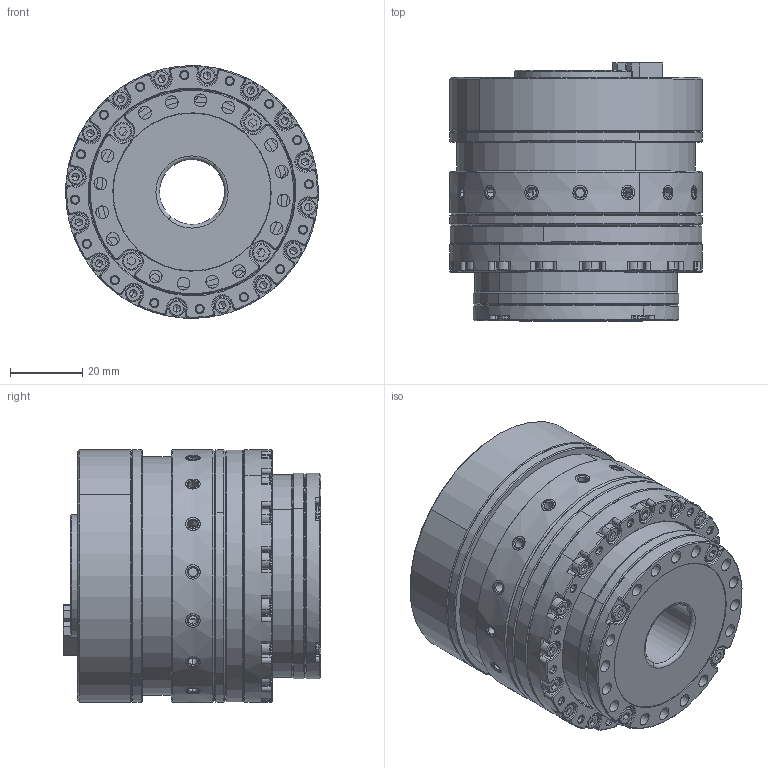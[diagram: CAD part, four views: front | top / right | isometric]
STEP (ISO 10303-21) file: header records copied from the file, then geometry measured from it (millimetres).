
FILE_DESCRIPTION (( 'STEP AP203' ), '1' );
FILE_NAME ('CRA-RI60-70-PRO-2-xxx-B0.STEP', '2024-11-11T05:46:29', ( '' ), ( '' ), 'SwSTEP 2.0', 'SolidWorks 2021', '' );
FILE_SCHEMA (( 'CONFIG_CONTROL_DESIGN' ));
Products named in the file (1): CRA-RI60-70-PRO-2-xxx-B0
Bounding box: 70 x 71.5 x 70 mm (x, y, z)
Surface area: 42692.2 mm2 (no closed solid volume)
Topology: 0 solids, 83 shells, 1141 faces, 3618 edges, 2518 vertices
Faces by surface type: plane 404, cylinder 352, cone 321, torus 64
Entity records: 44044 total; most frequent: CARTESIAN_POINT 11788, DIRECTION 7079, ORIENTED_EDGE 5789, EDGE_CURVE 3580, AXIS2_PLACEMENT_3D 2665, VERTEX_POINT 2518, VECTOR 1749, LINE 1749
